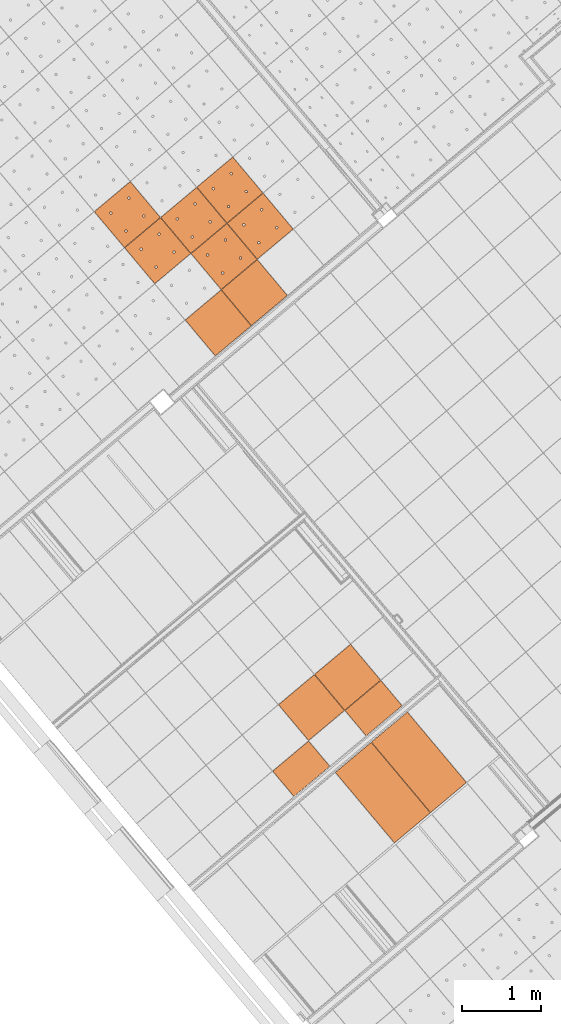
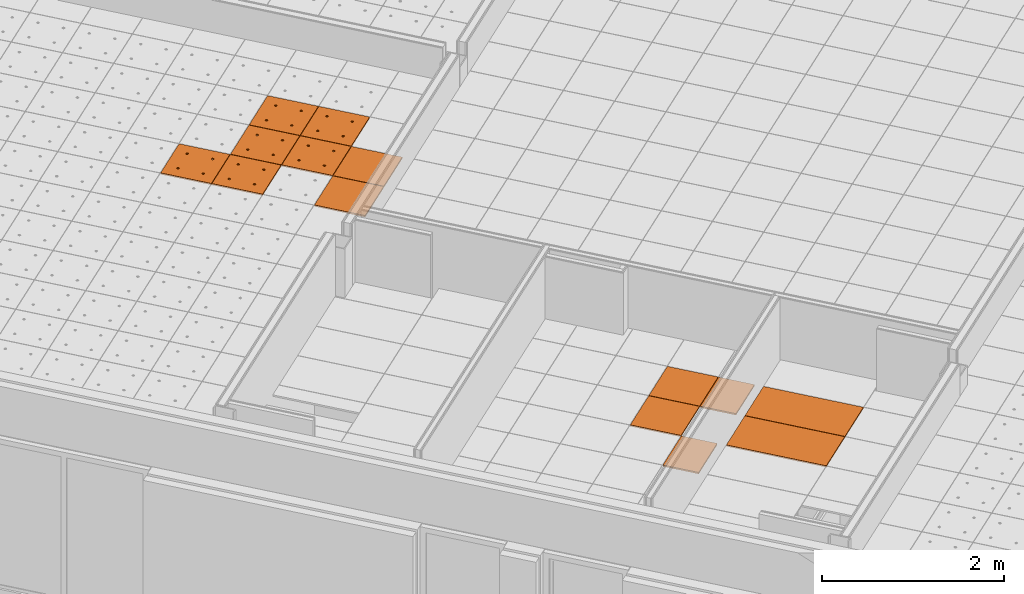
# One storey, part 144 of 338: 14 proxies, 3 elements without a shape of their own.
"""IFC2X3 building model written with IfcOpenShell, lengths in millimetres."""

from ifc_helpers import new_model, entity, si_unit, converted_unit, derived_unit, money_unit, direction, frame, origin_with_axes, place, context, subcontext, project, spatial, faceted_brep, source, transform, mapped, material, type_object, type_shapes, element, aggregate, save


model = new_model("IFC2X3")

# Units and contexts
model_context = context("Model", 3, precision=0.01, world=origin_with_axes(), true_north=direction((0.0, 1.0)))
plan_context = context("Plan", 3, precision=0.01, world=origin_with_axes(), true_north=direction((0.0, 1.0)))
body_context = subcontext(model_context, "Body", "Model", "MODEL_VIEW")
ifc_project = project(units=[si_unit("LENGTHUNIT", "METRE", prefix="MILLI"), si_unit("AREAUNIT", "SQUARE_METRE"), si_unit("VOLUMEUNIT", "CUBIC_METRE"), converted_unit("PLANEANGLEUNIT", "DEGREE", entity("IfcPlaneAngleMeasure", 0.0174532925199), si_unit("PLANEANGLEUNIT", "RADIAN"), dimensions=[0, 0, 0, 0, 0, 0, 0]), money_unit("EUR"), converted_unit("TIMEUNIT", "Year", entity("IfcTimeMeasure", 31556926.0), si_unit("TIMEUNIT", "SECOND"), dimensions=[0, 0, 1, 0, 0, 0, 0]), si_unit("MASSUNIT", "GRAM", prefix="KILO"), si_unit("THERMODYNAMICTEMPERATUREUNIT", "DEGREE_CELSIUS"), si_unit("LUMINOUSINTENSITYUNIT", "LUMEN"), si_unit("ENERGYUNIT", "JOULE", prefix="MEGA"), derived_unit("THERMALCONDUCTANCEUNIT", [(si_unit("POWERUNIT", "WATT"), 1), (si_unit("LENGTHUNIT", "METRE"), -1), (si_unit("THERMODYNAMICTEMPERATUREUNIT", "KELVIN"), -1)]), derived_unit("SPECIFICHEATCAPACITYUNIT", [(si_unit("ENERGYUNIT", "JOULE"), 1), (si_unit("MASSUNIT", "GRAM", prefix="KILO"), -1), (si_unit("THERMODYNAMICTEMPERATUREUNIT", "KELVIN"), -1)]), derived_unit("MASSDENSITYUNIT", [(si_unit("MASSUNIT", "GRAM", prefix="KILO"), 1), (si_unit("VOLUMEUNIT", "CUBIC_METRE"), -1)])], contexts=[model_context, plan_context])

# Site, building, storey
site_placement = place(None, origin_with_axes())
site = spatial("IfcSite", under=ifc_project, at=site_placement, Name="Fortuinstraat Woensdrecht", CompositionType="ELEMENT")
building_placement = place(site_placement, origin_with_axes())
building = spatial("IfcBuilding", under=site, at=building_placement, Name="IKC Fortuna", CompositionType="ELEMENT")
storey_placement = place(building_placement, origin_with_axes())
storey = spatial("IfcBuildingStorey", under=building, at=storey_placement, Name="00 begane grond", CompositionType="ELEMENT", Elevation=0.0)

# Covering, proxies
covering_type = type_object("IfcCoveringType", Name="Curtain Wall Type", PredefinedType="CEILING")
covering_1_placement = place(storey_placement, frame((6990.12644751, -7663.89158706, 4260.0), z_axis=(0.0, 0.0, 1.0), x_axis=(1.0, 0.0, 0.0)))
covering_1 = element("IfcCovering", 1, at=covering_1_placement, inside=storey, type_object=covering_type, Name="45_Plafondafwerking_P02", PredefinedType="CEILING")
ifc_material = material(Name="Gipsplaat")
building_element_proxy_type_1 = type_object("IfcBuildingElementProxyType", Name="Distinct Panel 600 x 600 x 20", PredefinedType="NOTDEFINED")
shared_shape_1 = source(origin_with_axes(), body_context, "Body", "Brep", [
    faceted_brep([(2.5000069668, 2.4999963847, -10.0), (597.499995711, 2.50000275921, -10.0), (597.499995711, 2.50000275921, 10.0), (2.5000069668, 2.4999963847, 10.0), (2.50000214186, 597.499967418, -10.0), (597.499990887, 597.499973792, -10.0), (597.499990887, 597.499973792, 10.0), (2.50000214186, 597.499967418, 10.0)], [[[0, 1, 2, 3]], [[0, 4, 5, 1]], [[1, 5, 6, 2]], [[3, 2, 6, 7]], [[4, 0, 3, 7]], [[5, 4, 7, 6]]]),
])
proxy_1_placement = place(covering_1_placement, frame((2593.37617107, 609.613029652, 0.0), z_axis=(0.0, 0.0, 1.0), x_axis=(1.0, 0.0, 0.0)))
proxy_1 = element("IfcBuildingElementProxy", 2, at=proxy_1_placement, type_object=building_element_proxy_type_1, material=ifc_material, Name="__Panel-D", context=body_context, shape_type="MappedRepresentation", body=[
    mapped(shared_shape_1, transform((36.9769427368, 422.649625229, 0.0), x_axis=(-0.766044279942, -0.642787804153, 0.0), y_axis=(0.642787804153, -0.766044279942, 0.0), z_axis=(0.0, 0.0, 1.0))),
])
shared_shape_2 = source(origin_with_axes(), body_context, "Body", "Brep", [
    faceted_brep([(2.50000185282, 2.50000514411, -10.0), (597.499994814, 2.50000188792, -10.0), (597.499994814, 2.50000188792, 10.0), (2.50000185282, 2.50000514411, 10.0), (2.50000510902, 597.499998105, -10.0), (597.49998844, 597.50000293, -10.0), (597.49998844, 597.50000293, 10.0), (2.50000510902, 597.499998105, 10.0)], [[[0, 1, 2, 3]], [[0, 4, 5, 1]], [[1, 5, 6, 2]], [[3, 2, 6, 7]], [[4, 0, 3, 7]], [[5, 4, 7, 6]]]),
])
type_shapes(building_element_proxy_type_1, [shared_shape_1, shared_shape_2])
proxy_2_placement = place(covering_1_placement, frame((3053.00273903, 995.285712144, 0.0), z_axis=(0.0, 0.0, 1.0), x_axis=(1.0, 0.0, 0.0)))
proxy_2 = element("IfcBuildingElementProxy", 3, at=proxy_2_placement, type_object=building_element_proxy_type_1, material=ifc_material, Name="__Panel-D", context=body_context, shape_type="MappedRepresentation", body=[
    mapped(shared_shape_2, transform((36.9769427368, 422.649625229, 0.0), x_axis=(-0.766044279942, -0.642787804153, 0.0), y_axis=(0.642787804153, -0.766044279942, 0.0), z_axis=(0.0, 0.0, 1.0))),
])

covering_2_placement = place(storey_placement, frame((9775.85169731, -1002.28242867, 4660.0), z_axis=(0.0, 0.0, 1.0), x_axis=(1.0, 0.0, 0.0)))
covering_2 = element("IfcCovering", 4, at=covering_2_placement, inside=storey, type_object=covering_type, Name="45_Plafondafwerking_P01", PredefinedType="CEILING")
building_element_proxy_type_2 = type_object("IfcBuildingElementProxyType", Name="Main Panel 600 x 600 x 20", PredefinedType="NOTDEFINED")
shared_shape_3 = source(origin_with_axes(), body_context, "Body", "Brep", [
    faceted_brep([(2.49999999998, 2.49999999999, -10.0), (300.0, 2.49999999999, -10.0), (300.0, 2.49999999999, 10.0), (2.49999999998, 2.49999999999, 10.0), (2.49999999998, 300.0, -10.0), (2.49999999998, 597.5, -10.0), (300.0, 597.5, -10.0), (597.5, 597.5, -10.0), (597.5, 300.0, -10.0), (597.5, 2.49999999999, -10.0), (166.25, 450.06232995, -10.0), (165.79423259, 452.64711538, -10.0), (164.896546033, 455.11348892, -10.0), (163.58421608, 457.38651108, -10.0), (161.897117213, 459.39711721, -10.0), (159.886511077, 461.08421608, -10.0), (157.613488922, 462.39654603, -10.0), (155.147115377, 463.29423259, -10.0), (152.562329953, 463.75, -10.0), (149.937670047, 463.75, -10.0), (147.352884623, 463.29423259, -10.0), (144.886511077, 462.39654603, -10.0), (142.613488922, 461.08421608, -10.0), (140.602882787, 459.39711721, -10.0), (138.91578392, 457.38651108, -10.0), (137.603453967, 455.11348892, -10.0), (136.705767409, 452.64711538, -10.0), (136.25, 450.06232995, -10.0), (136.25, 448.75, -10.0), (136.25, 447.43767005, -10.0), (136.705767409, 444.85288462, -10.0), (137.603453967, 442.38651108, -10.0), (138.91578392, 440.11348892, -10.0), (140.602882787, 438.10288279, -10.0), (142.613488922, 436.41578392, -10.0), (144.886511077, 435.10345397, -10.0), (147.352884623, 434.20576741, -10.0), (149.937670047, 433.75, -10.0), (152.562329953, 433.75, -10.0), (155.147115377, 434.20576741, -10.0), (157.613488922, 435.10345397, -10.0), (159.886511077, 436.41578392, -10.0), (161.897117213, 438.10288279, -10.0), (163.58421608, 440.11348892, -10.0), (164.896546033, 442.38651108, -10.0), (165.79423259, 444.85288462, -10.0), (166.25, 447.43767005, -10.0), (463.75, 450.06232995, -10.0), (463.29423259, 452.64711538, -10.0), (462.396546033, 455.11348892, -10.0), (461.08421608, 457.38651108, -10.0), (459.397117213, 459.39711721, -10.0), (457.386511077, 461.08421608, -10.0), (455.113488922, 462.39654603, -10.0), (452.647115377, 463.29423259, -10.0), (450.062329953, 463.75, -10.0), (447.437670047, 463.75, -10.0), (444.852884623, 463.29423259, -10.0), (442.386511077, 462.39654603, -10.0), (440.113488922, 461.08421608, -10.0), (438.102882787, 459.39711721, -10.0), (436.41578392, 457.38651108, -10.0), (435.103453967, 455.11348892, -10.0), (434.205767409, 452.64711538, -10.0), (433.75, 450.06232995, -10.0), (433.75, 448.75, -10.0), (433.75, 447.43767005, -10.0), (434.205767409, 444.85288462, -10.0), (435.103453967, 442.38651108, -10.0), (436.41578392, 440.11348892, -10.0), (438.102882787, 438.10288279, -10.0), (440.113488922, 436.41578392, -10.0), (442.386511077, 435.10345397, -10.0), (444.852884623, 434.20576741, -10.0), (447.437670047, 433.75, -10.0), (450.062329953, 433.75, -10.0), (452.647115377, 434.20576741, -10.0), (455.113488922, 435.10345397, -10.0), (457.386511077, 436.41578392, -10.0), (459.397117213, 438.10288279, -10.0), (461.08421608, 440.11348892, -10.0), (462.396546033, 442.38651108, -10.0), (463.29423259, 444.85288462, -10.0), (463.75, 447.43767005, -10.0), (463.75, 152.56232995, -10.0), (463.29423259, 155.14711538, -10.0), (462.396546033, 157.61348892, -10.0), (461.08421608, 159.88651108, -10.0), (459.397117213, 161.89711721, -10.0), (457.386511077, 163.58421608, -10.0), (455.113488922, 164.89654603, -10.0), (452.647115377, 165.79423259, -10.0), (450.062329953, 166.25, -10.0), (447.437670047, 166.25, -10.0), (444.852884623, 165.79423259, -10.0), (442.386511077, 164.89654603, -10.0), (440.113488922, 163.58421608, -10.0), (438.102882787, 161.89711721, -10.0), (436.41578392, 159.88651108, -10.0), (435.103453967, 157.61348892, -10.0), (434.205767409, 155.14711538, -10.0), (433.75, 152.56232995, -10.0), (433.75, 151.25, -10.0), (433.75, 149.93767005, -10.0), (434.205767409, 147.35288462, -10.0), (435.103453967, 144.88651108, -10.0), (436.41578392, 142.61348892, -10.0), (438.102882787, 140.60288279, -10.0), (440.113488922, 138.91578392, -10.0), (442.386511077, 137.60345397, -10.0), (444.852884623, 136.70576741, -10.0), (447.437670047, 136.25, -10.0), (450.062329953, 136.25, -10.0), (452.647115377, 136.70576741, -10.0), (455.113488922, 137.60345397, -10.0), (457.386511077, 138.91578392, -10.0), (459.397117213, 140.60288279, -10.0), (461.08421608, 142.61348892, -10.0), (462.396546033, 144.88651108, -10.0), (463.29423259, 147.35288462, -10.0), (463.75, 149.93767005, -10.0), (166.25, 152.56232995, -10.0), (165.79423259, 155.14711538, -10.0), (164.896546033, 157.61348892, -10.0), (163.58421608, 159.88651108, -10.0), (161.897117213, 161.89711721, -10.0), (159.886511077, 163.58421608, -10.0), (157.613488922, 164.89654603, -10.0), (155.147115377, 165.79423259, -10.0), (152.562329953, 166.25, -10.0), (149.937670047, 166.25, -10.0), (147.352884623, 165.79423259, -10.0), (144.886511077, 164.89654603, -10.0), (142.613488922, 163.58421608, -10.0), (140.602882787, 161.89711721, -10.0), (138.91578392, 159.88651108, -10.0), (137.603453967, 157.61348892, -10.0), (136.705767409, 155.14711538, -10.0), (136.25, 152.56232995, -10.0), (136.25, 151.25, -10.0), (136.25, 149.93767005, -10.0), (136.705767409, 147.35288462, -10.0), (137.603453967, 144.88651108, -10.0), (138.91578392, 142.61348892, -10.0), (140.602882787, 140.60288279, -10.0), (142.613488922, 138.91578392, -10.0), (144.886511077, 137.60345397, -10.0), (147.352884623, 136.70576741, -10.0), (149.937670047, 136.25, -10.0), (152.562329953, 136.25, -10.0), (155.147115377, 136.70576741, -10.0), (157.613488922, 137.60345397, -10.0), (159.886511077, 138.91578392, -10.0), (161.897117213, 140.60288279, -10.0), (163.58421608, 142.61348892, -10.0), (164.896546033, 144.88651108, -10.0), (165.79423259, 147.35288462, -10.0), (166.25, 149.93767005, -10.0), (597.5, 2.49999999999, 10.0), (597.5, 300.0, 10.0), (597.5, 597.5, 10.0), (300.0, 597.5, 10.0), (2.49999999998, 597.5, 10.0), (2.49999999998, 300.0, 10.0), (166.25, 450.06232995, 10.0), (166.25, 447.43767005, 10.0), (165.79423259, 444.85288462, 10.0), (164.896546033, 442.38651108, 10.0), (163.58421608, 440.11348892, 10.0), (161.897117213, 438.10288279, 10.0), (159.886511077, 436.41578392, 10.0), (157.613488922, 435.10345397, 10.0), (155.147115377, 434.20576741, 10.0), (152.562329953, 433.75, 10.0), (149.937670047, 433.75, 10.0), (147.352884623, 434.20576741, 10.0), (144.886511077, 435.10345397, 10.0), (142.613488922, 436.41578392, 10.0), (140.602882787, 438.10288279, 10.0), (138.91578392, 440.11348892, 10.0), (137.603453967, 442.38651108, 10.0), (136.705767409, 444.85288462, 10.0), (136.25, 447.43767005, 10.0), (136.25, 448.75, 10.0), (136.25, 450.06232995, 10.0), (136.705767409, 452.64711538, 10.0), (137.603453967, 455.11348892, 10.0), (138.91578392, 457.38651108, 10.0), (140.602882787, 459.39711721, 10.0), (142.613488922, 461.08421608, 10.0), (144.886511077, 462.39654603, 10.0), (147.352884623, 463.29423259, 10.0), (149.937670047, 463.75, 10.0), (152.562329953, 463.75, 10.0), (155.147115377, 463.29423259, 10.0), (157.613488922, 462.39654603, 10.0), (159.886511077, 461.08421608, 10.0), (161.897117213, 459.39711721, 10.0), (163.58421608, 457.38651108, 10.0), (164.896546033, 455.11348892, 10.0), (165.79423259, 452.64711538, 10.0), (463.75, 450.06232995, 10.0), (463.75, 447.43767005, 10.0), (463.29423259, 444.85288462, 10.0), (462.396546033, 442.38651108, 10.0), (461.08421608, 440.11348892, 10.0), (459.397117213, 438.10288279, 10.0), (457.386511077, 436.41578392, 10.0), (455.113488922, 435.10345397, 10.0), (452.647115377, 434.20576741, 10.0), (450.062329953, 433.75, 10.0), (447.437670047, 433.75, 10.0), (444.852884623, 434.20576741, 10.0), (442.386511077, 435.10345397, 10.0), (440.113488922, 436.41578392, 10.0), (438.102882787, 438.10288279, 10.0), (436.41578392, 440.11348892, 10.0), (435.103453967, 442.38651108, 10.0), (434.205767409, 444.85288462, 10.0), (433.75, 447.43767005, 10.0), (433.75, 448.75, 10.0), (433.75, 450.06232995, 10.0), (434.205767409, 452.64711538, 10.0), (435.103453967, 455.11348892, 10.0), (436.41578392, 457.38651108, 10.0), (438.102882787, 459.39711721, 10.0), (440.113488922, 461.08421608, 10.0), (442.386511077, 462.39654603, 10.0), (444.852884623, 463.29423259, 10.0), (447.437670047, 463.75, 10.0), (450.062329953, 463.75, 10.0), (452.647115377, 463.29423259, 10.0), (455.113488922, 462.39654603, 10.0), (457.386511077, 461.08421608, 10.0), (459.397117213, 459.39711721, 10.0), (461.08421608, 457.38651108, 10.0), (462.396546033, 455.11348892, 10.0), (463.29423259, 452.64711538, 10.0), (463.75, 152.56232995, 10.0), (463.75, 149.93767005, 10.0), (463.29423259, 147.35288462, 10.0), (462.396546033, 144.88651108, 10.0), (461.08421608, 142.61348892, 10.0), (459.397117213, 140.60288279, 10.0), (457.386511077, 138.91578392, 10.0), (455.113488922, 137.60345397, 10.0), (452.647115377, 136.70576741, 10.0), (450.062329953, 136.25, 10.0), (447.437670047, 136.25, 10.0), (444.852884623, 136.70576741, 10.0), (442.386511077, 137.60345397, 10.0), (440.113488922, 138.91578392, 10.0), (438.102882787, 140.60288279, 10.0), (436.41578392, 142.61348892, 10.0), (435.103453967, 144.88651108, 10.0), (434.205767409, 147.35288462, 10.0), (433.75, 149.93767005, 10.0), (433.75, 151.25, 10.0), (433.75, 152.56232995, 10.0), (434.205767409, 155.14711538, 10.0), (435.103453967, 157.61348892, 10.0), (436.41578392, 159.88651108, 10.0), (438.102882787, 161.89711721, 10.0), (440.113488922, 163.58421608, 10.0), (442.386511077, 164.89654603, 10.0), (444.852884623, 165.79423259, 10.0), (447.437670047, 166.25, 10.0), (450.062329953, 166.25, 10.0), (452.647115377, 165.79423259, 10.0), (455.113488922, 164.89654603, 10.0), (457.386511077, 163.58421608, 10.0), (459.397117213, 161.89711721, 10.0), (461.08421608, 159.88651108, 10.0), (462.396546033, 157.61348892, 10.0), (463.29423259, 155.14711538, 10.0), (166.25, 152.56232995, 10.0), (166.25, 149.93767005, 10.0), (165.79423259, 147.35288462, 10.0), (164.896546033, 144.88651108, 10.0), (163.58421608, 142.61348892, 10.0), (161.897117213, 140.60288279, 10.0), (159.886511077, 138.91578392, 10.0), (157.613488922, 137.60345397, 10.0), (155.147115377, 136.70576741, 10.0), (152.562329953, 136.25, 10.0), (149.937670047, 136.25, 10.0), (147.352884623, 136.70576741, 10.0), (144.886511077, 137.60345397, 10.0), (142.613488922, 138.91578392, 10.0), (140.602882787, 140.60288279, 10.0), (138.91578392, 142.61348892, 10.0), (137.603453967, 144.88651108, 10.0), (136.705767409, 147.35288462, 10.0), (136.25, 149.93767005, 10.0), (136.25, 151.25, 10.0), (136.25, 152.56232995, 10.0), (136.705767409, 155.14711538, 10.0), (137.603453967, 157.61348892, 10.0), (138.91578392, 159.88651108, 10.0), (140.602882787, 161.89711721, 10.0), (142.613488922, 163.58421608, 10.0), (144.886511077, 164.89654603, 10.0), (147.352884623, 165.79423259, 10.0), (149.937670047, 166.25, 10.0), (152.562329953, 166.25, 10.0), (155.147115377, 165.79423259, 10.0), (157.613488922, 164.89654603, 10.0), (159.886511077, 163.58421608, 10.0), (161.897117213, 161.89711721, 10.0), (163.58421608, 159.88651108, 10.0), (164.896546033, 157.61348892, 10.0), (165.79423259, 155.14711538, 10.0)], [[[0, 1, 2, 3]], [[0, 4, 5, 6, 7, 8, 9, 1], [10, 11, 12, 13, 14, 15, 16, 17, 18, 19, 20, 21, 22, 23, 24, 25, 26, 27, 28, 29, 30, 31, 32, 33, 34, 35, 36, 37, 38, 39, 40, 41, 42, 43, 44, 45, 46], [47, 48, 49, 50, 51, 52, 53, 54, 55, 56, 57, 58, 59, 60, 61, 62, 63, 64, 65, 66, 67, 68, 69, 70, 71, 72, 73, 74, 75, 76, 77, 78, 79, 80, 81, 82, 83], [84, 85, 86, 87, 88, 89, 90, 91, 92, 93, 94, 95, 96, 97, 98, 99, 100, 101, 102, 103, 104, 105, 106, 107, 108, 109, 110, 111, 112, 113, 114, 115, 116, 117, 118, 119, 120], [121, 122, 123, 124, 125, 126, 127, 128, 129, 130, 131, 132, 133, 134, 135, 136, 137, 138, 139, 140, 141, 142, 143, 144, 145, 146, 147, 148, 149, 150, 151, 152, 153, 154, 155, 156, 157]], [[1, 9, 158, 2]], [[3, 2, 158, 159, 160, 161, 162, 163], [164, 165, 166, 167, 168, 169, 170, 171, 172, 173, 174, 175, 176, 177, 178, 179, 180, 181, 182, 183, 184, 185, 186, 187, 188, 189, 190, 191, 192, 193, 194, 195, 196, 197, 198, 199, 200], [201, 202, 203, 204, 205, 206, 207, 208, 209, 210, 211, 212, 213, 214, 215, 216, 217, 218, 219, 220, 221, 222, 223, 224, 225, 226, 227, 228, 229, 230, 231, 232, 233, 234, 235, 236, 237], [238, 239, 240, 241, 242, 243, 244, 245, 246, 247, 248, 249, 250, 251, 252, 253, 254, 255, 256, 257, 258, 259, 260, 261, 262, 263, 264, 265, 266, 267, 268, 269, 270, 271, 272, 273, 274], [275, 276, 277, 278, 279, 280, 281, 282, 283, 284, 285, 286, 287, 288, 289, 290, 291, 292, 293, 294, 295, 296, 297, 298, 299, 300, 301, 302, 303, 304, 305, 306, 307, 308, 309, 310, 311]], [[4, 0, 3, 163]], [[5, 4, 163, 162]], [[6, 5, 162, 161]], [[7, 6, 161, 160]], [[8, 7, 160, 159]], [[9, 8, 159, 158]], [[11, 10, 164, 200]], [[12, 11, 200, 199]], [[13, 12, 199, 198]], [[14, 13, 198, 197]], [[15, 14, 197, 196]], [[16, 15, 196, 195]], [[17, 16, 195, 194]], [[18, 17, 194, 193]], [[19, 18, 193, 192]], [[20, 19, 192, 191]], [[21, 20, 191, 190]], [[22, 21, 190, 189]], [[23, 22, 189, 188]], [[24, 23, 188, 187]], [[25, 24, 187, 186]], [[26, 25, 186, 185]], [[27, 26, 185, 184]], [[28, 27, 184, 183]], [[29, 28, 183, 182]], [[30, 29, 182, 181]], [[31, 30, 181, 180]], [[32, 31, 180, 179]], [[33, 32, 179, 178]], [[34, 33, 178, 177]], [[35, 34, 177, 176]], [[36, 35, 176, 175]], [[37, 36, 175, 174]], [[38, 37, 174, 173]], [[39, 38, 173, 172]], [[40, 39, 172, 171]], [[41, 40, 171, 170]], [[42, 41, 170, 169]], [[43, 42, 169, 168]], [[44, 43, 168, 167]], [[45, 44, 167, 166]], [[46, 45, 166, 165]], [[10, 46, 165, 164]], [[48, 47, 201, 237]], [[49, 48, 237, 236]], [[50, 49, 236, 235]], [[51, 50, 235, 234]], [[52, 51, 234, 233]], [[53, 52, 233, 232]], [[54, 53, 232, 231]], [[55, 54, 231, 230]], [[56, 55, 230, 229]], [[57, 56, 229, 228]], [[58, 57, 228, 227]], [[59, 58, 227, 226]], [[60, 59, 226, 225]], [[61, 60, 225, 224]], [[62, 61, 224, 223]], [[63, 62, 223, 222]], [[64, 63, 222, 221]], [[65, 64, 221, 220]], [[66, 65, 220, 219]], [[67, 66, 219, 218]], [[68, 67, 218, 217]], [[69, 68, 217, 216]], [[70, 69, 216, 215]], [[71, 70, 215, 214]], [[72, 71, 214, 213]], [[73, 72, 213, 212]], [[74, 73, 212, 211]], [[75, 74, 211, 210]], [[76, 75, 210, 209]], [[77, 76, 209, 208]], [[78, 77, 208, 207]], [[79, 78, 207, 206]], [[80, 79, 206, 205]], [[81, 80, 205, 204]], [[82, 81, 204, 203]], [[83, 82, 203, 202]], [[47, 83, 202, 201]], [[85, 84, 238, 274]], [[86, 85, 274, 273]], [[87, 86, 273, 272]], [[88, 87, 272, 271]], [[89, 88, 271, 270]], [[90, 89, 270, 269]], [[91, 90, 269, 268]], [[92, 91, 268, 267]], [[93, 92, 267, 266]], [[94, 93, 266, 265]], [[95, 94, 265, 264]], [[96, 95, 264, 263]], [[97, 96, 263, 262]], [[98, 97, 262, 261]], [[99, 98, 261, 260]], [[100, 99, 260, 259]], [[101, 100, 259, 258]], [[102, 101, 258, 257]], [[103, 102, 257, 256]], [[104, 103, 256, 255]], [[105, 104, 255, 254]], [[106, 105, 254, 253]], [[107, 106, 253, 252]], [[108, 107, 252, 251]], [[109, 108, 251, 250]], [[110, 109, 250, 249]], [[111, 110, 249, 248]], [[112, 111, 248, 247]], [[113, 112, 247, 246]], [[114, 113, 246, 245]], [[115, 114, 245, 244]], [[116, 115, 244, 243]], [[117, 116, 243, 242]], [[118, 117, 242, 241]], [[119, 118, 241, 240]], [[120, 119, 240, 239]], [[84, 120, 239, 238]], [[122, 121, 275, 311]], [[123, 122, 311, 310]], [[124, 123, 310, 309]], [[125, 124, 309, 308]], [[126, 125, 308, 307]], [[127, 126, 307, 306]], [[128, 127, 306, 305]], [[129, 128, 305, 304]], [[130, 129, 304, 303]], [[131, 130, 303, 302]], [[132, 131, 302, 301]], [[133, 132, 301, 300]], [[134, 133, 300, 299]], [[135, 134, 299, 298]], [[136, 135, 298, 297]], [[137, 136, 297, 296]], [[138, 137, 296, 295]], [[139, 138, 295, 294]], [[140, 139, 294, 293]], [[141, 140, 293, 292]], [[142, 141, 292, 291]], [[143, 142, 291, 290]], [[144, 143, 290, 289]], [[145, 144, 289, 288]], [[146, 145, 288, 287]], [[147, 146, 287, 286]], [[148, 147, 286, 285]], [[149, 148, 285, 284]], [[150, 149, 284, 283]], [[151, 150, 283, 282]], [[152, 151, 282, 281]], [[153, 152, 281, 280]], [[154, 153, 280, 279]], [[155, 154, 279, 278]], [[156, 155, 278, 277]], [[157, 156, 277, 276]], [[121, 157, 276, 275]]]),
])
type_shapes(building_element_proxy_type_2, [shared_shape_3])
proxy_3_placement = place(covering_2_placement, frame((-1230.97194732, 533.580470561, 0.0), z_axis=(0.0, 0.0, 1.0), x_axis=(1.0, 0.0, 0.0)))
proxy_3 = element("IfcBuildingElementProxy", 5, at=proxy_3_placement, type_object=building_element_proxy_type_2, material=ifc_material, Name="__600x705 Rockfon Krios", context=body_context, shape_type="MappedRepresentation", body=[
    mapped(shared_shape_3, transform((36.9769427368, 422.649625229, 0.0), x_axis=(-0.766044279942, -0.642787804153, 0.0), y_axis=(0.642787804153, -0.766044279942, 0.0), z_axis=(0.0, 0.0, 1.0))),
])
proxy_4_placement = place(covering_2_placement, frame((-845.299264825, 73.953902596, 0.0), z_axis=(0.0, 0.0, 1.0), x_axis=(1.0, 0.0, 0.0)))
proxy_4 = element("IfcBuildingElementProxy", 6, at=proxy_4_placement, type_object=building_element_proxy_type_2, material=ifc_material, Name="__600x706 Rockfon Krios", context=body_context, shape_type="MappedRepresentation", body=[
    mapped(shared_shape_3, transform((36.9769427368, 422.649625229, 0.0), x_axis=(-0.766044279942, -0.642787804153, 0.0), y_axis=(0.642787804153, -0.766044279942, 0.0), z_axis=(0.0, 0.0, 1.0))),
])
proxy_5_placement = place(covering_2_placement, frame((-1690.59851528, 147.90778807, 0.0), z_axis=(0.0, 0.0, 1.0), x_axis=(1.0, 0.0, 0.0)))
proxy_5 = element("IfcBuildingElementProxy", 7, at=proxy_5_placement, type_object=building_element_proxy_type_2, material=ifc_material, Name="__600x714 Rockfon Krios", context=body_context, shape_type="MappedRepresentation", body=[
    mapped(shared_shape_3, transform((36.9769427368, 422.649625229, 0.0), x_axis=(-0.766044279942, -0.642787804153, 0.0), y_axis=(0.642787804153, -0.766044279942, 0.0), z_axis=(0.0, 0.0, 1.0))),
])
proxy_6_placement = place(covering_2_placement, frame((-1304.92583279, -311.718779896, 0.0), z_axis=(0.0, 0.0, 1.0), x_axis=(1.0, 0.0, 0.0)))
proxy_6 = element("IfcBuildingElementProxy", 8, at=proxy_6_placement, type_object=building_element_proxy_type_2, material=ifc_material, Name="__600x715 Rockfon Krios", context=body_context, shape_type="MappedRepresentation", body=[
    mapped(shared_shape_3, transform((36.9769427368, 422.649625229, 0.0), x_axis=(-0.766044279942, -0.642787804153, 0.0), y_axis=(0.642787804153, -0.766044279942, 0.0), z_axis=(0.0, 0.0, 1.0))),
])
proxy_7_placement = place(covering_2_placement, frame((-2535.89776574, 221.861673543, 0.0), z_axis=(0.0, 0.0, 1.0), x_axis=(1.0, 0.0, 0.0)))
proxy_7 = element("IfcBuildingElementProxy", 9, at=proxy_7_placement, type_object=building_element_proxy_type_2, material=ifc_material, Name="__600x722 Rockfon Krios", context=body_context, shape_type="MappedRepresentation", body=[
    mapped(shared_shape_3, transform((36.9769427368, 422.649625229, 0.0), x_axis=(-0.766044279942, -0.642787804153, 0.0), y_axis=(0.642787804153, -0.766044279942, 0.0), z_axis=(0.0, 0.0, 1.0))),
])
proxy_8_placement = place(covering_2_placement, frame((-2150.22508325, -237.764894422, 0.0), z_axis=(0.0, 0.0, 1.0), x_axis=(1.0, 0.0, 0.0)))
proxy_8 = element("IfcBuildingElementProxy", 10, at=proxy_8_placement, type_object=building_element_proxy_type_2, material=ifc_material, Name="__600x723 Rockfon Krios", context=body_context, shape_type="MappedRepresentation", body=[
    mapped(shared_shape_3, transform((36.9769427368, 422.649625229, 0.0), x_axis=(-0.766044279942, -0.642787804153, 0.0), y_axis=(0.642787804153, -0.766044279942, 0.0), z_axis=(0.0, 0.0, 1.0))),
])

covering_3_placement = place(storey_placement, frame((12053.0472686, -8408.71417201, 4260.0), z_axis=(0.0, 0.0, 1.0), x_axis=(1.0, 0.0, 0.0)))
covering_3 = element("IfcCovering", 11, at=covering_3_placement, inside=storey, type_object=covering_type, Name="45_Plafondafwerking_P02a", PredefinedType="CEILING")
building_element_proxy_type_3 = type_object("IfcBuildingElementProxyType", Name="Distinct Panel 600 x 1175 x 20", PredefinedType="NOTDEFINED")
shared_shape_4 = source(origin_with_axes(), body_context, "Body", "Brep", [
    faceted_brep([(-597.500011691, 27.5045918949, -10.0), (-597.500011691, 27.5045918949, 10.0), (-597.500015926, 1197.49999589, 10.0), (-597.500015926, 1197.49999589, -10.0), (-2.49999238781, 27.5046045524, -10.0), (-2.49999238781, 27.5046045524, 10.0), (-2.50000892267, 1197.49999389, 10.0), (-2.50000892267, 1197.49999389, -10.0)], [[[0, 1, 2, 3]], [[4, 5, 1, 0]], [[1, 5, 6, 2]], [[3, 2, 6, 7]], [[0, 3, 7, 4]], [[7, 6, 5, 4]]]),
])
proxy_9_placement = place(covering_3_placement, frame((-1561.63969838, 272.436250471, 0.0), z_axis=(0.0, 0.0, 1.0), x_axis=(1.0, 0.0, 0.0)))
proxy_9 = element("IfcBuildingElementProxy", 12, at=proxy_9_placement, type_object=building_element_proxy_type_3, material=ifc_material, Name="__Panel-D", context=body_context, shape_type="MappedRepresentation", body=[
    mapped(shared_shape_4, transform((-623.522262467, 276.367602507, 0.0), x_axis=(-0.766044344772, -0.642787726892, 0.0), y_axis=(0.642787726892, -0.766044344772, 0.0), z_axis=(0.0, 0.0, 1.0))),
])
shared_shape_5 = source(origin_with_axes(), body_context, "Body", "Brep", [
    faceted_brep([(-597.50001067, 27.5045910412, -10.0), (-597.50001067, 27.5045910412, 10.0), (-597.500014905, 1197.4999958, 10.0), (-597.500014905, 1197.4999958, -10.0), (-2.49999097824, 27.5046036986, -10.0), (-2.49999097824, 27.5046036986, 10.0), (-2.499995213, 1197.50000846, 10.0), (-2.499995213, 1197.50000846, -10.0)], [[[0, 1, 2, 3]], [[4, 5, 1, 0]], [[1, 5, 6, 2]], [[3, 2, 6, 7]], [[0, 3, 7, 4]], [[7, 6, 5, 4]]]),
])
type_shapes(building_element_proxy_type_3, [shared_shape_4, shared_shape_5])
proxy_10_placement = place(covering_3_placement, frame((-1102.01308801, 658.108882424, 1.06581410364e-10), z_axis=(0.0, 0.0, 1.0), x_axis=(1.0, 0.0, 0.0)))
proxy_10 = element("IfcBuildingElementProxy", 13, at=proxy_10_placement, type_object=building_element_proxy_type_3, material=ifc_material, Name="__Panel-D", context=body_context, shape_type="MappedRepresentation", body=[
    mapped(shared_shape_5, transform((-623.522265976, 276.367606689, 0.0), x_axis=(-0.766044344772, -0.642787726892, 0.0), y_axis=(0.642787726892, -0.766044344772, 0.0), z_axis=(0.0, 0.0, 1.0))),
])
aggregate(covering_3, [proxy_9, proxy_10])

# Proxy
building_element_proxy_type_4 = type_object("IfcBuildingElementProxyType", Name="600 x 600 x 20", PredefinedType="NOTDEFINED")
shared_shape_6 = source(origin_with_axes(), body_context, "Body", "Brep", [
    faceted_brep([(2.49999732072, 2.50000913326, -10.0), (597.499988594, 2.49999469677, -10.0), (597.499988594, 2.49999469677, 10.0), (2.49999732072, 2.50000913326, 10.0), (2.49999902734, 597.500043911, -10.0), (597.499988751, 597.500047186, -10.0), (597.499988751, 597.500047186, 10.0), (2.49999902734, 597.500043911, 10.0)], [[[0, 1, 2, 3]], [[0, 4, 5, 1]], [[1, 5, 6, 2]], [[3, 2, 6, 7]], [[4, 0, 3, 7]], [[5, 4, 7, 6]]]),
])
proxy_11_placement = place(covering_2_placement, frame((-919.253135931, -771.345364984, 0.0), z_axis=(0.0, 0.0, 1.0), x_axis=(1.0, 0.0, 0.0)))
proxy_11 = element("IfcBuildingElementProxy", 14, at=proxy_11_placement, type_object=building_element_proxy_type_4, material=ifc_material, Name="__600x725 Rockfon Krios", context=body_context, shape_type="MappedRepresentation", body=[
    mapped(shared_shape_6, transform((36.9769283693, 422.649642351, 0.0), x_axis=(-0.766044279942, -0.642787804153, 0.0), y_axis=(0.642787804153, -0.766044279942, 0.0), z_axis=(0.0, 0.0, 1.0))),
])

shared_shape_7 = source(origin_with_axes(), body_context, "Body", "Brep", [
    faceted_brep([(2.49999736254, 2.50000909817, -10.0), (597.499988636, 2.49999466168, -10.0), (597.499988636, 2.49999466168, 10.0), (2.49999736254, 2.50000909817, 10.0), (2.49999906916, 597.500043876, -10.0), (597.499988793, 597.500047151, -10.0), (597.499988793, 597.500047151, 10.0), (2.49999906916, 597.500043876, 10.0)], [[[0, 1, 2, 3]], [[0, 4, 5, 1]], [[1, 5, 6, 2]], [[3, 2, 6, 7]], [[4, 0, 3, 7]], [[5, 4, 7, 6]]]),
])
type_shapes(building_element_proxy_type_4, [shared_shape_6, shared_shape_7])
proxy_12_placement = place(covering_2_placement, frame((-1378.8797039, -1157.01804748, 0.0), z_axis=(0.0, 0.0, 1.0), x_axis=(1.0, 0.0, 0.0)))
proxy_12 = element("IfcBuildingElementProxy", 15, at=proxy_12_placement, type_object=building_element_proxy_type_4, material=ifc_material, Name="__600x688 Rockfon Krios", context=body_context, shape_type="MappedRepresentation", body=[
    mapped(shared_shape_7, transform((36.9769283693, 422.649642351, 0.0), x_axis=(-0.766044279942, -0.642787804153, 0.0), y_axis=(0.642787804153, -0.766044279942, 0.0), z_axis=(0.0, 0.0, 1.0))),
])

aggregate(covering_2, [proxy_12, proxy_3, proxy_4, proxy_5, proxy_6, proxy_7, proxy_8, proxy_11])

building_element_proxy_type_5 = type_object("IfcBuildingElementProxyType", Name="Distinct Panel 600 x 425 x 20", PredefinedType="NOTDEFINED")
shared_shape_8 = source(origin_with_axes(), body_context, "Body", "Brep", [
    faceted_brep([(2.49999503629, 2.4999980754, -10.0), (597.499988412, 2.50000757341, -10.0), (597.499988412, 2.50000757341, 10.0), (2.49999503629, 2.4999980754, 10.0), (2.50000078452, 422.451748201, -10.0), (597.500010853, 422.451743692, -10.0), (597.500010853, 422.451743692, 10.0), (2.50000078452, 422.451748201, 10.0)], [[[0, 1, 2, 3]], [[0, 4, 5, 1]], [[1, 5, 6, 2]], [[3, 2, 6, 7]], [[4, 0, 3, 7]], [[5, 4, 7, 6]]]),
])
proxy_13_placement = place(covering_1_placement, frame((2463.162843, -168.638862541, 0.0), z_axis=(0.0, 0.0, 1.0), x_axis=(1.0, 0.0, 0.0)))
proxy_13 = element("IfcBuildingElementProxy", 16, at=proxy_13_placement, type_object=building_element_proxy_type_5, material=ifc_material, Name="__Panel-D", context=body_context, shape_type="MappedRepresentation", body=[
    mapped(shared_shape_8, transform((93.2363853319, 355.602266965, 0.0), x_axis=(-0.766044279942, -0.642787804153, 0.0), y_axis=(0.642787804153, -0.766044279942, 0.0), z_axis=(0.0, 0.0, 1.0))),
])

shared_shape_9 = source(origin_with_axes(), body_context, "Body", "Brep", [
    faceted_brep([(2.49999982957, 2.50000777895, -10.0), (597.499990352, 2.50000058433, -10.0), (597.499990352, 2.50000058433, 10.0), (2.49999982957, 2.50000777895, 10.0), (2.5000125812, 422.451774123, -10.0), (597.500005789, 422.451736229, -10.0), (597.500005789, 422.451736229, 10.0), (2.5000125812, 422.451774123, 10.0)], [[[0, 1, 2, 3]], [[0, 4, 5, 1]], [[1, 5, 6, 2]], [[3, 2, 6, 7]], [[4, 0, 3, 7]], [[5, 4, 7, 6]]]),
])
type_shapes(building_element_proxy_type_5, [shared_shape_8, shared_shape_9])
proxy_14_placement = place(covering_1_placement, frame((3382.41598151, 602.706499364, 0.0), z_axis=(0.0, 0.0, 1.0), x_axis=(1.0, 0.0, 0.0)))
proxy_14 = element("IfcBuildingElementProxy", 17, at=proxy_14_placement, type_object=building_element_proxy_type_5, material=ifc_material, Name="__Panel-D", context=body_context, shape_type="MappedRepresentation", body=[
    mapped(shared_shape_9, transform((93.2363827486, 355.602270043, 0.0), x_axis=(-0.766044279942, -0.642787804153, 0.0), y_axis=(0.642787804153, -0.766044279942, 0.0), z_axis=(0.0, 0.0, 1.0))),
])

aggregate(covering_1, [proxy_2, proxy_14, proxy_13, proxy_1])

save(model, "model.ifc")
